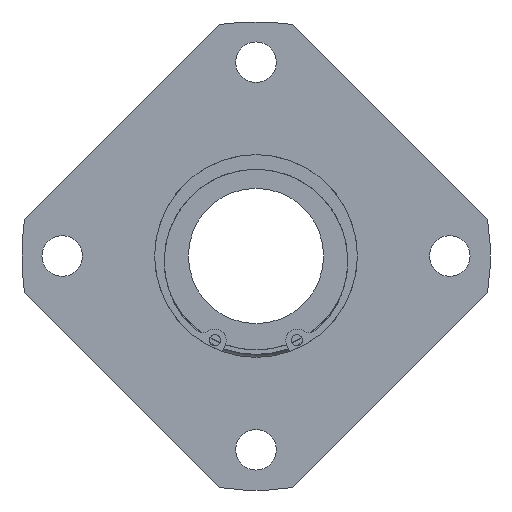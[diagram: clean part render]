
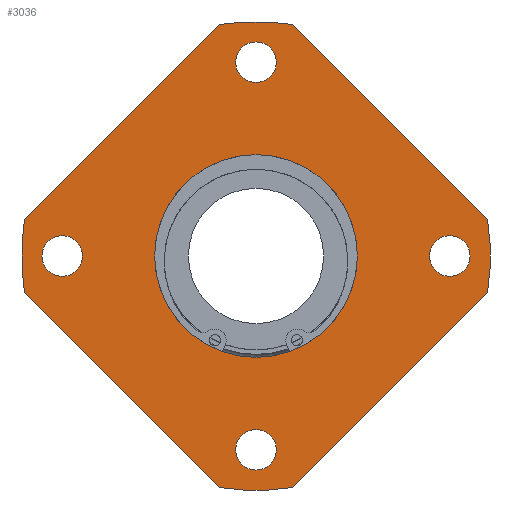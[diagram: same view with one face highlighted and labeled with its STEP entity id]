
A CAD part, left-side view. The second image highlights one B-rep face of the part: STEP entity #3036.
In plain terms, the highlighted planar face has unit normal (-1, 0, 0).
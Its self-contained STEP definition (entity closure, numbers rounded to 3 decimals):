
#2659=CARTESIAN_POINT('',(0.0,0.0,22.5));
#2660=VERTEX_POINT('',#2659);
#2661=CARTESIAN_POINT('',(0.0,0.0,0.0));
#2662=DIRECTION('',(-1.0,0.0,0.0));
#2663=DIRECTION('',(0.0,0.0,1.0));
#2664=AXIS2_PLACEMENT_3D('',#2661,#2662,#2663);
#2665=CIRCLE('',#2664,22.5);
#2666=EDGE_CURVE('',#2660,#2660,#2665,.T.);
#2751=CARTESIAN_POINT('',(0.0,-51.378,-8.019));
#2752=VERTEX_POINT('',#2751);
#2759=CARTESIAN_POINT('',(0.0,-8.019,-51.378));
#2760=VERTEX_POINT('',#2759);
#2761=CARTESIAN_POINT('',(0.0,-8.019,-51.378));
#2762=DIRECTION('',(0.0,-0.707,0.707));
#2763=VECTOR('',#2762,61.319);
#2764=LINE('',#2761,#2763);
#2765=EDGE_CURVE('',#2760,#2752,#2764,.T.);
#2791=CARTESIAN_POINT('',(0.0,51.378,8.019));
#2792=VERTEX_POINT('',#2791);
#2799=CARTESIAN_POINT('',(0.0,8.019,51.378));
#2800=VERTEX_POINT('',#2799);
#2801=CARTESIAN_POINT('',(0.0,8.019,51.378));
#2802=DIRECTION('',(0.0,0.707,-0.707));
#2803=VECTOR('',#2802,61.319);
#2804=LINE('',#2801,#2803);
#2805=EDGE_CURVE('',#2800,#2792,#2804,.T.);
#2831=CARTESIAN_POINT('',(0.0,8.019,-51.378));
#2832=VERTEX_POINT('',#2831);
#2839=CARTESIAN_POINT('',(0.0,51.378,-8.019));
#2840=VERTEX_POINT('',#2839);
#2841=CARTESIAN_POINT('',(0.0,51.378,-8.019));
#2842=DIRECTION('',(0.0,-0.707,-0.707));
#2843=VECTOR('',#2842,61.319);
#2844=LINE('',#2841,#2843);
#2845=EDGE_CURVE('',#2840,#2832,#2844,.T.);
#2871=CARTESIAN_POINT('',(0.0,-8.019,51.378));
#2872=VERTEX_POINT('',#2871);
#2879=CARTESIAN_POINT('',(0.0,-51.378,8.019));
#2880=VERTEX_POINT('',#2879);
#2881=CARTESIAN_POINT('',(0.0,-51.378,8.019));
#2882=DIRECTION('',(0.0,0.707,0.707));
#2883=VECTOR('',#2882,61.319);
#2884=LINE('',#2881,#2883);
#2885=EDGE_CURVE('',#2880,#2872,#2884,.T.);
#2910=CARTESIAN_POINT('',(0.0,0.0,0.0));
#2911=DIRECTION('',(-1.0,0.0,0.0));
#2912=DIRECTION('',(0.0,0.0,1.0));
#2913=AXIS2_PLACEMENT_3D('',#2910,#2911,#2912);
#2914=CIRCLE('',#2913,52.0);
#2915=EDGE_CURVE('',#2752,#2880,#2914,.T.);
#2934=CARTESIAN_POINT('',(0.0,0.0,0.0));
#2935=DIRECTION('',(-1.0,0.0,0.0));
#2936=DIRECTION('',(0.0,0.0,1.0));
#2937=AXIS2_PLACEMENT_3D('',#2934,#2935,#2936);
#2938=CIRCLE('',#2937,52.0);
#2939=EDGE_CURVE('',#2792,#2840,#2938,.T.);
#2950=CARTESIAN_POINT('',(0.0,0.0,0.0));
#2951=DIRECTION('',(-1.0,0.0,0.0));
#2952=DIRECTION('',(0.0,0.0,1.0));
#2953=AXIS2_PLACEMENT_3D('',#2950,#2951,#2952);
#2954=CIRCLE('',#2953,52.0);
#2955=EDGE_CURVE('',#2872,#2800,#2954,.T.);
#2968=CARTESIAN_POINT('',(0.0,0.0,37.25));
#2969=DIRECTION('',(-1.0,0.0,0.0));
#2970=DIRECTION('',(0.0,0.0,1.0));
#2971=AXIS2_PLACEMENT_3D('',#2968,#2969,#2970);
#2972=PLANE('',#2971);
#2973=ORIENTED_EDGE('',*,*,#2765,.T.);
#2974=ORIENTED_EDGE('',*,*,#2915,.T.);
#2975=ORIENTED_EDGE('',*,*,#2885,.T.);
#2976=ORIENTED_EDGE('',*,*,#2955,.T.);
#2977=ORIENTED_EDGE('',*,*,#2805,.T.);
#2978=ORIENTED_EDGE('',*,*,#2939,.T.);
#2979=ORIENTED_EDGE('',*,*,#2845,.T.);
#2980=CARTESIAN_POINT('',(0.0,0.0,0.0));
#2981=DIRECTION('',(-1.0,0.0,0.0));
#2982=DIRECTION('',(0.0,0.0,1.0));
#2983=AXIS2_PLACEMENT_3D('',#2980,#2981,#2982);
#2984=CIRCLE('',#2983,52.0);
#2985=EDGE_CURVE('',#2832,#2760,#2984,.T.);
#2986=ORIENTED_EDGE('',*,*,#2985,.T.);
#2987=EDGE_LOOP('',(#2973,#2974,#2975,#2976,#2977,#2978,#2979,#2986));
#2988=FACE_OUTER_BOUND('',#2987,.T.);
#2989=ORIENTED_EDGE('',*,*,#2666,.F.);
#2990=EDGE_LOOP('',(#2989));
#2991=FACE_BOUND('',#2990,.T.);
#2992=CARTESIAN_POINT('',(0.0,4.5,43.0));
#2993=VERTEX_POINT('',#2992);
#2994=CARTESIAN_POINT('',(0.0,0.,43.0));
#2995=DIRECTION('',(1.0,0.0,0.0));
#2996=DIRECTION('',(0.0,1.0,0.0));
#2997=AXIS2_PLACEMENT_3D('',#2994,#2995,#2996);
#2998=CIRCLE('',#2997,4.5);
#2999=EDGE_CURVE('',#2993,#2993,#2998,.T.);
#3000=ORIENTED_EDGE('',*,*,#2999,.T.);
#3001=EDGE_LOOP('',(#3000));
#3002=FACE_BOUND('',#3001,.T.);
#3003=CARTESIAN_POINT('',(0.0,-43.0,4.5));
#3004=VERTEX_POINT('',#3003);
#3005=CARTESIAN_POINT('',(0.0,-43.0,0.));
#3006=DIRECTION('',(1.0,0.0,0.0));
#3007=DIRECTION('',(0.0,0.0,1.0));
#3008=AXIS2_PLACEMENT_3D('',#3005,#3006,#3007);
#3009=CIRCLE('',#3008,4.5);
#3010=EDGE_CURVE('',#3004,#3004,#3009,.T.);
#3011=ORIENTED_EDGE('',*,*,#3010,.T.);
#3012=EDGE_LOOP('',(#3011));
#3013=FACE_BOUND('',#3012,.T.);
#3014=CARTESIAN_POINT('',(0.0,-4.5,-43.0));
#3015=VERTEX_POINT('',#3014);
#3016=CARTESIAN_POINT('',(0.0,0.,-43.0));
#3017=DIRECTION('',(1.0,0.0,0.0));
#3018=DIRECTION('',(0.0,-1.0,0.0));
#3019=AXIS2_PLACEMENT_3D('',#3016,#3017,#3018);
#3020=CIRCLE('',#3019,4.5);
#3021=EDGE_CURVE('',#3015,#3015,#3020,.T.);
#3022=ORIENTED_EDGE('',*,*,#3021,.T.);
#3023=EDGE_LOOP('',(#3022));
#3024=FACE_BOUND('',#3023,.T.);
#3025=CARTESIAN_POINT('',(0.0,43.0,-4.5));
#3026=VERTEX_POINT('',#3025);
#3027=CARTESIAN_POINT('',(0.0,43.0,0.));
#3028=DIRECTION('',(1.0,0.0,0.0));
#3029=DIRECTION('',(0.0,0.0,-1.0));
#3030=AXIS2_PLACEMENT_3D('',#3027,#3028,#3029);
#3031=CIRCLE('',#3030,4.5);
#3032=EDGE_CURVE('',#3026,#3026,#3031,.T.);
#3033=ORIENTED_EDGE('',*,*,#3032,.T.);
#3034=EDGE_LOOP('',(#3033));
#3035=FACE_BOUND('',#3034,.T.);
#3036=ADVANCED_FACE('',(#2988,#2991,#3002,#3013,#3024,#3035),#2972,.T.);
